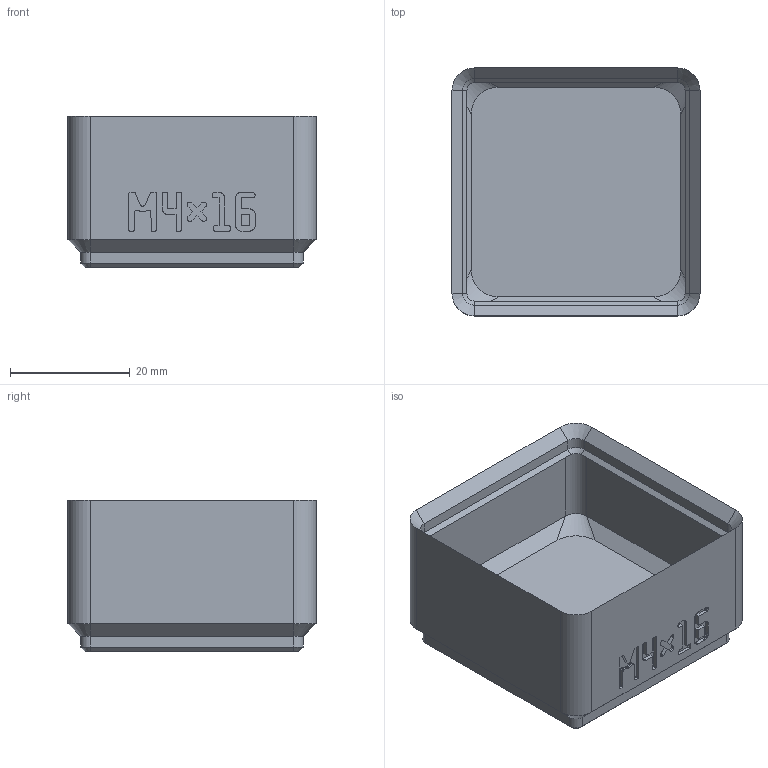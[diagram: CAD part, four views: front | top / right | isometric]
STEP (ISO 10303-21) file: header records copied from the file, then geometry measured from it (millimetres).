
FILE_DESCRIPTION(('Open CASCADE Model'),'2;1');
FILE_NAME('bin_m4x16','2026-11-03T16:47:50',('Author'),('Open CASCADE'), 'Open CASCADE STEP processor 8.0','build123d','Unknown');
FILE_SCHEMA(('AUTOMOTIVE_DESIGN { 1 0 10303 214 1 1 1 1 }'));
Length unit declared in the file: millimetre
Products named in the file (1): bin_m4x16
Bounding box: 41.5 x 41.5 x 25.4 mm (x, y, z)
Volume: 12306.1 mm3; surface area: 10470.5 mm2
Topology: 1 solids, 1 shells, 576 faces, 1621 edges, 1062 vertices
Faces by surface type: plane 528, cylinder 24, cone 16, bspline 8
Full cylindrical faces by diameter (mm): 3.2 x4, 6.5 x4
Entity records: 38206 total; most frequent: CARTESIAN_POINT 7728, DIRECTION 4935, LINE 3649, VECTOR 3649, ORIENTED_EDGE 3242, PCURVE 3242, DEFINITIONAL_REPRESENTATION 3242, EDGE_CURVE 1621
